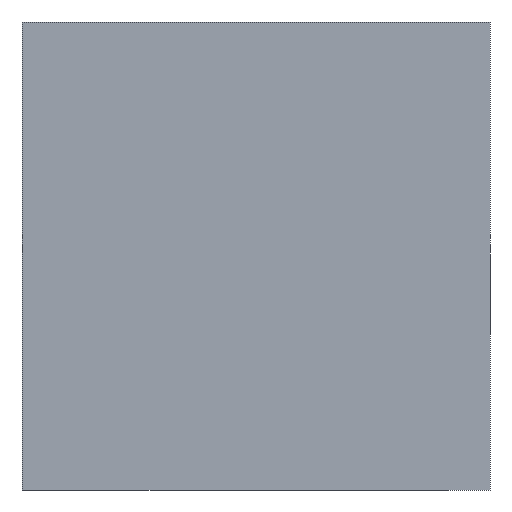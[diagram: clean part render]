
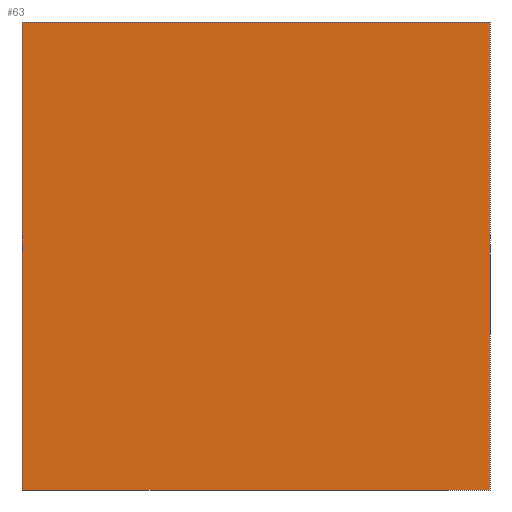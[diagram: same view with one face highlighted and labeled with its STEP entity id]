
A CAD part, left-side view. The second image highlights one B-rep face of the part: STEP entity #63.
In plain terms, the highlighted planar face has unit normal (-1, 0, 0).
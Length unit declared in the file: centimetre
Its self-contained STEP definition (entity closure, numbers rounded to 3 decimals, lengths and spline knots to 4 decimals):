
#27 = VERTEX_POINT ( 'NONE', #64 ) ;
#30 = FACE_OUTER_BOUND ( 'NONE', #260, .T. ) ;
#37 = LINE ( 'NONE', #158, #375 ) ;
#46 = CARTESIAN_POINT ( 'NONE',  ( 0., 1000., 0. ) ) ;
#48 = CARTESIAN_POINT ( 'NONE',  ( 0., 1000., 0. ) ) ;
#63 = ADVANCED_FACE ( 'NONE', ( #30 ), #318, .F. ) ;
#64 = CARTESIAN_POINT ( 'NONE',  ( 0., 0., 1000. ) ) ;
#79 = VERTEX_POINT ( 'NONE', #237 ) ;
#90 = VERTEX_POINT ( 'NONE', #198 ) ;
#95 = VECTOR ( 'NONE', #325, 100. ) ;
#97 = VECTOR ( 'NONE', #464, 100. ) ;
#111 = LINE ( 'NONE', #536, #95 ) ;
#131 = ORIENTED_EDGE ( 'NONE', *, *, #343, .T. ) ;
#132 = ORIENTED_EDGE ( 'NONE', *, *, #407, .T. ) ;
#158 = CARTESIAN_POINT ( 'NONE',  ( 0., 1000., 1000. ) ) ;
#161 = DIRECTION ( 'NONE',  ( 0., -1., 0. ) ) ;
#193 = VECTOR ( 'NONE', #281, 100. ) ;
#198 = CARTESIAN_POINT ( 'NONE',  ( 0., 1000., 1000. ) ) ;
#232 = CARTESIAN_POINT ( 'NONE',  ( 0., 0., 1000. ) ) ;
#237 = CARTESIAN_POINT ( 'NONE',  ( 0., 0., 0. ) ) ;
#252 = ORIENTED_EDGE ( 'NONE', *, *, #369, .F. ) ;
#260 = EDGE_LOOP ( 'NONE', ( #131, #252, #273, #132 ) ) ;
#273 = ORIENTED_EDGE ( 'NONE', *, *, #405, .F. ) ;
#281 = DIRECTION ( 'NONE',  ( 0., 0., -1. ) ) ;
#284 = AXIS2_PLACEMENT_3D ( 'NONE', #364, #450, #370 ) ;
#291 = LINE ( 'NONE', #46, #97 ) ;
#312 = LINE ( 'NONE', #232, #193 ) ;
#318 = PLANE ( 'NONE',  #284 ) ;
#325 = DIRECTION ( 'NONE',  ( 0., 0., -1. ) ) ;
#340 = VERTEX_POINT ( 'NONE', #48 ) ;
#343 = EDGE_CURVE ( 'NONE', #340, #79, #291, .T. ) ;
#364 = CARTESIAN_POINT ( 'NONE',  ( 0., 1000., 1000. ) ) ;
#369 = EDGE_CURVE ( 'NONE', #27, #79, #312, .T. ) ;
#370 = DIRECTION ( 'NONE',  ( 0., 0., -1. ) ) ;
#375 = VECTOR ( 'NONE', #161, 100. ) ;
#405 = EDGE_CURVE ( 'NONE', #90, #27, #37, .T. ) ;
#407 = EDGE_CURVE ( 'NONE', #90, #340, #111, .T. ) ;
#450 = DIRECTION ( 'NONE',  ( 1., 0., 0. ) ) ;
#464 = DIRECTION ( 'NONE',  ( 0., -1., 0. ) ) ;
#536 = CARTESIAN_POINT ( 'NONE',  ( 0., 1000., 1000. ) ) ;
